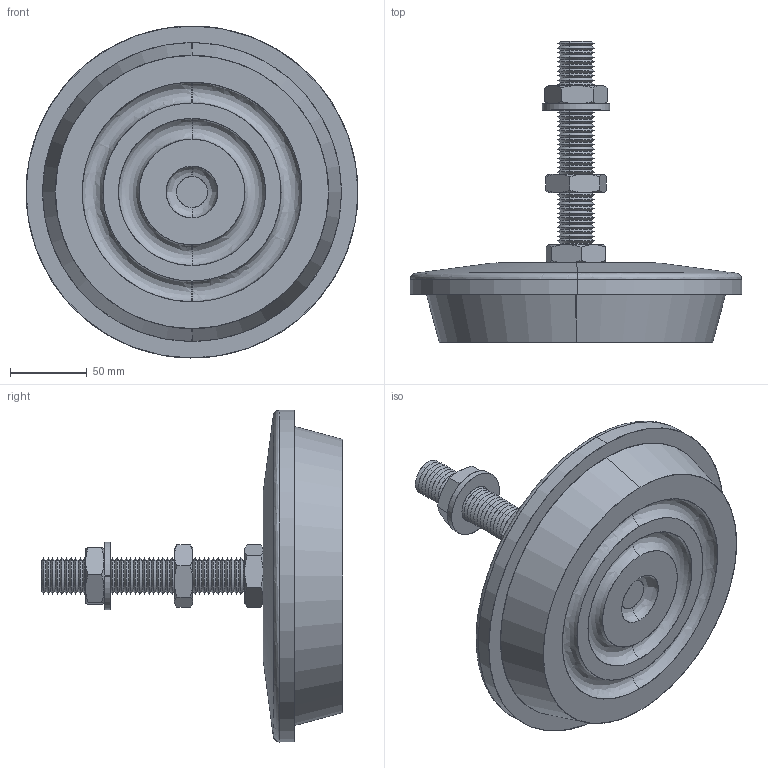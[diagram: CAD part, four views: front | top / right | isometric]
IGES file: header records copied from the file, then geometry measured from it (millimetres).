
Start section: SolidWorks IGES file using analytic representation for surfaces
Global section: file name: C:\Documents and Settings\IANO\Desktop\Temp File\Process pending\EXISTING\34930_v2\34930_v2_20170626_IGES\34930.W0217.igs; native system: SolidWorks 2009; preprocessor: SolidWorks 2009; author: IANO; date: 170626.131520; units: millimetre
Bounding box: 216.99 x 197 x 216.99 mm (x, y, z)
Surface area: 198005 mm2 (no closed solid volume)
Topology: 0 solids, 0 shells, 332 faces, 3224 edges, 3224 vertices
Faces by surface type: revolution 288, bspline 44
